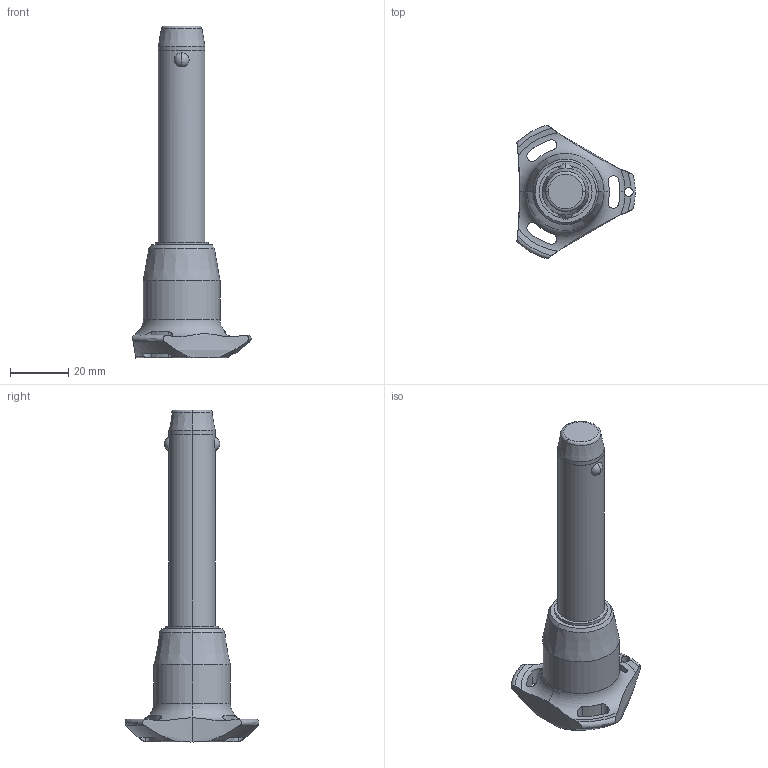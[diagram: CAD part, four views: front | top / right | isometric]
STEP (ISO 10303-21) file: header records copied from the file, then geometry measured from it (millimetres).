
FILE_DESCRIPTION (( 'STEP AP203' ), '1' );
FILE_NAME ('QR1726.M16-060-T.step', '2025-11-13T11:19:44', ( '' ), ( '' ), 'SwSTEP 2.0', 'SolidWorks 2019', '' );
FILE_SCHEMA (( 'CONFIG_CONTROL_DESIGN' ));
Length unit declared in the file: millimetre
Products named in the file (1): QR1726.M16-060-T
Bounding box: 40.5 x 45.88 x 113.7 mm (x, y, z)
Volume: 37159.7 mm3; surface area: 9674.8 mm2
Topology: 1 solids, 1 shells, 68 faces, 184 edges, 117 vertices
Faces by surface type: cylinder 32, cone 14, torus 11, sphere 6, plane 5
Entity records: 2950 total; most frequent: CARTESIAN_POINT 1194, ORIENTED_EDGE 368, DIRECTION 345, EDGE_CURVE 184, AXIS2_PLACEMENT_3D 154, VERTEX_POINT 117, CIRCLE 85, EDGE_LOOP 75
